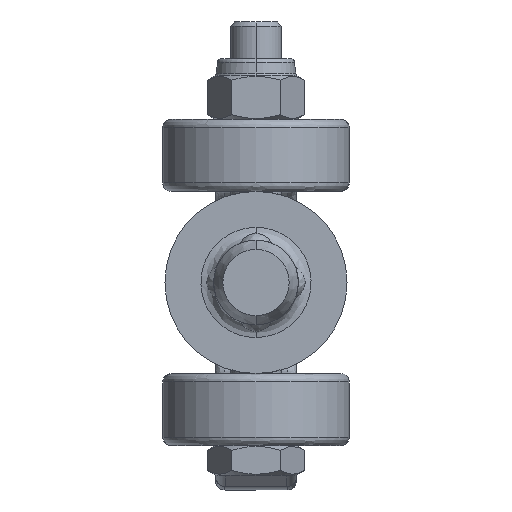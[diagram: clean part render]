
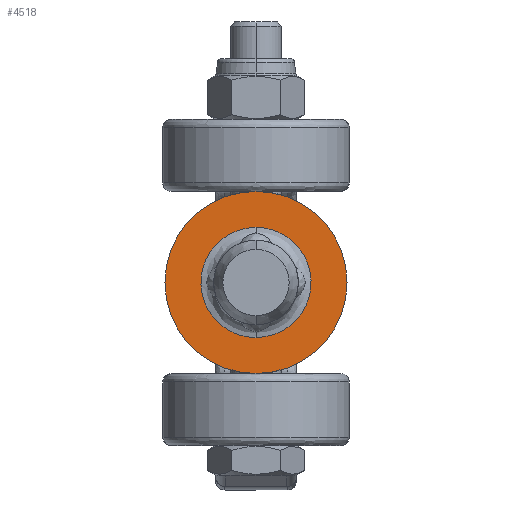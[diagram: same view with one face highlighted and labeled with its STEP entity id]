
A CAD part, front view. The second image highlights one B-rep face of the part: STEP entity #4518.
In plain terms, the highlighted planar face has unit normal (0, -1, 0) as drawn and (-1, 0, 0) by its records, which use the part's own axes.
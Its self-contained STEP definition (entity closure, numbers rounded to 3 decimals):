
#17 = CARTESIAN_POINT ( 'NONE',  ( 0., 13., 6.5 ) ) ;
#86 = CARTESIAN_POINT ( 'NONE',  ( 0., 0., 6.5 ) ) ;
#484 = VERTEX_POINT ( 'NONE', #989 ) ;
#555 = CARTESIAN_POINT ( 'NONE',  ( 0., 0., -10.75 ) ) ;
#862 = DIRECTION ( 'NONE',  ( 1., 0., 0. ) ) ;
#989 = CARTESIAN_POINT ( 'NONE',  ( 0., 0., -6.5 ) ) ;
#2058 =( BOUNDED_CURVE ( )  B_SPLINE_CURVE ( 3, ( #5359, #7641, #8626, #86 ),
 .UNSPECIFIED., .F., .F. ) 
 B_SPLINE_CURVE_WITH_KNOTS ( ( 4, 4 ),
 ( 0., 0.5 ),
 .UNSPECIFIED. ) 
 CURVE ( )  GEOMETRIC_REPRESENTATION_ITEM ( )  RATIONAL_B_SPLINE_CURVE ( ( 1., 0.333, 0.333, 1. ) ) 
 REPRESENTATION_ITEM ( '' )  );
#2110 = CIRCLE ( 'NONE', #4812, 10.75 ) ;
#2390 = EDGE_CURVE ( 'NONE', #6566, #484, #2743, .T. ) ;
#2428 = FACE_BOUND ( 'NONE', #3820, .T. ) ;
#2743 =( BOUNDED_CURVE ( )  B_SPLINE_CURVE ( 3, ( #7419, #17, #5992, #2940 ),
 .UNSPECIFIED., .F., .F. ) 
 B_SPLINE_CURVE_WITH_KNOTS ( ( 4, 4 ),
 ( 0.5, 1. ),
 .UNSPECIFIED. ) 
 CURVE ( )  GEOMETRIC_REPRESENTATION_ITEM ( )  RATIONAL_B_SPLINE_CURVE ( ( 1., 0.333, 0.333, 1. ) ) 
 REPRESENTATION_ITEM ( '' )  );
#2940 = CARTESIAN_POINT ( 'NONE',  ( 0., 0., -6.5 ) ) ;
#3820 = EDGE_LOOP ( 'NONE', ( #3893, #8823 ) ) ;
#3893 = ORIENTED_EDGE ( 'NONE', *, *, #8098, .F. ) ;
#3964 = DIRECTION ( 'NONE',  ( 1., 0., 0. ) ) ;
#4200 = CARTESIAN_POINT ( 'NONE',  ( 0., 0., 0. ) ) ;
#4518 = ADVANCED_FACE ( 'NONE', ( #2428, #5470 ), #6856, .F. ) ;
#4687 = CARTESIAN_POINT ( 'NONE',  ( 0., 0., 10.75 ) ) ;
#4812 = AXIS2_PLACEMENT_3D ( 'NONE', #4200, #9422, #7235 ) ;
#5205 = AXIS2_PLACEMENT_3D ( 'NONE', #9336, #3964, #7594 ) ;
#5350 = VERTEX_POINT ( 'NONE', #555 ) ;
#5359 = CARTESIAN_POINT ( 'NONE',  ( 0., 0., -6.5 ) ) ;
#5434 = CARTESIAN_POINT ( 'NONE',  ( 0., 0., 6.5 ) ) ;
#5437 = EDGE_CURVE ( 'NONE', #5350, #5512, #5830, .T. ) ;
#5470 = FACE_OUTER_BOUND ( 'NONE', #8880, .T. ) ;
#5512 = VERTEX_POINT ( 'NONE', #4687 ) ;
#5830 = CIRCLE ( 'NONE', #6778, 10.75 ) ;
#5992 = CARTESIAN_POINT ( 'NONE',  ( 0., 13., -6.5 ) ) ;
#6220 = EDGE_CURVE ( 'NONE', #5512, #5350, #2110, .T. ) ;
#6566 = VERTEX_POINT ( 'NONE', #5434 ) ;
#6778 = AXIS2_PLACEMENT_3D ( 'NONE', #7677, #862, #7622 ) ;
#6856 = PLANE ( 'NONE',  #5205 ) ;
#7064 = ORIENTED_EDGE ( 'NONE', *, *, #6220, .F. ) ;
#7235 = DIRECTION ( 'NONE',  ( 0., 0., 1. ) ) ;
#7419 = CARTESIAN_POINT ( 'NONE',  ( 0., 0., 6.5 ) ) ;
#7594 = DIRECTION ( 'NONE',  ( 0., 0., -1. ) ) ;
#7622 = DIRECTION ( 'NONE',  ( 0., 0., 1. ) ) ;
#7641 = CARTESIAN_POINT ( 'NONE',  ( 0., -13., -6.5 ) ) ;
#7677 = CARTESIAN_POINT ( 'NONE',  ( 0., 0., 0. ) ) ;
#8098 = EDGE_CURVE ( 'NONE', #484, #6566, #2058, .T. ) ;
#8269 = ORIENTED_EDGE ( 'NONE', *, *, #5437, .F. ) ;
#8626 = CARTESIAN_POINT ( 'NONE',  ( 0., -13., 6.5 ) ) ;
#8823 = ORIENTED_EDGE ( 'NONE', *, *, #2390, .F. ) ;
#8880 = EDGE_LOOP ( 'NONE', ( #7064, #8269 ) ) ;
#9336 = CARTESIAN_POINT ( 'NONE',  ( 0., 6.5, 0. ) ) ;
#9422 = DIRECTION ( 'NONE',  ( 1., 0., 0. ) ) ;
